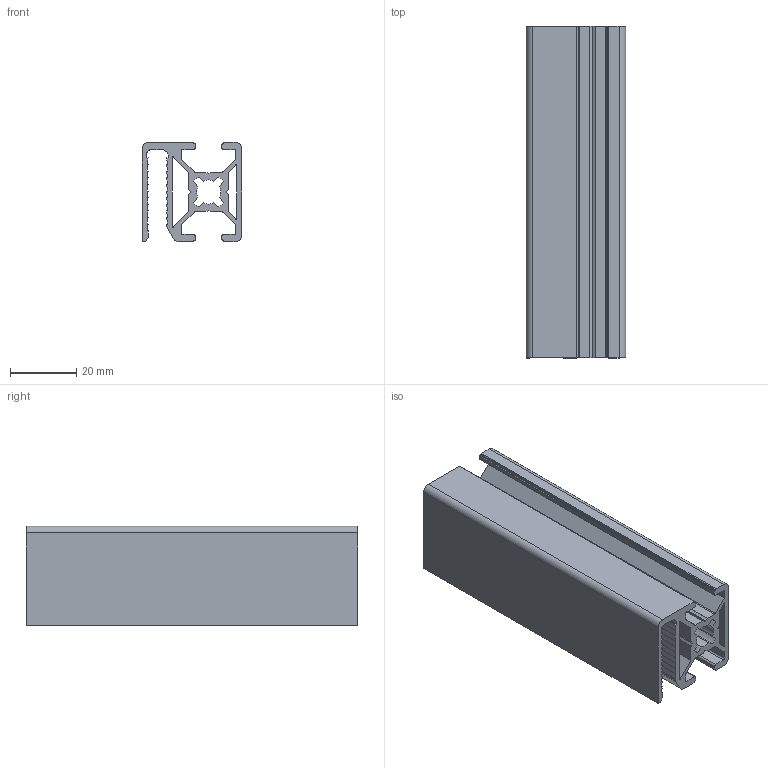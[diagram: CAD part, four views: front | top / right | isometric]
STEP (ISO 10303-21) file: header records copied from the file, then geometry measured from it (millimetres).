
FILE_DESCRIPTION( ( 'Unknown' ), '1' );
FILE_NAME( '//NAS_LAN/private_lan_Vol3/DB/Serie1/0043-B8-3030SG30-2014-09-15/B8-3030SG3030.stp', 'Unknown', ( 'Unknown' ), ( 'Unknown' ), 'XStep 1.0', 'Unknown', ' ' );
FILE_SCHEMA( ( 'automotive_design' ) );
Length unit declared in the file: millimetre
Products named in the file (1): 1
Bounding box: 30 x 100 x 30 mm (x, y, z)
Volume: 32282.3 mm3; surface area: 35982.1 mm2
Topology: 1 solids, 1 shells, 169 faces, 501 edges, 334 vertices
Faces by surface type: plane 114, cylinder 55
Entity records: 7025 total; most frequent: CARTESIAN_POINT 1005, ORIENTED_EDGE 1002, DIRECTION 951, EDGE_CURVE 501, LINE 391, VECTOR 391, VERTEX_POINT 334, AXIS2_PLACEMENT_3D 280
